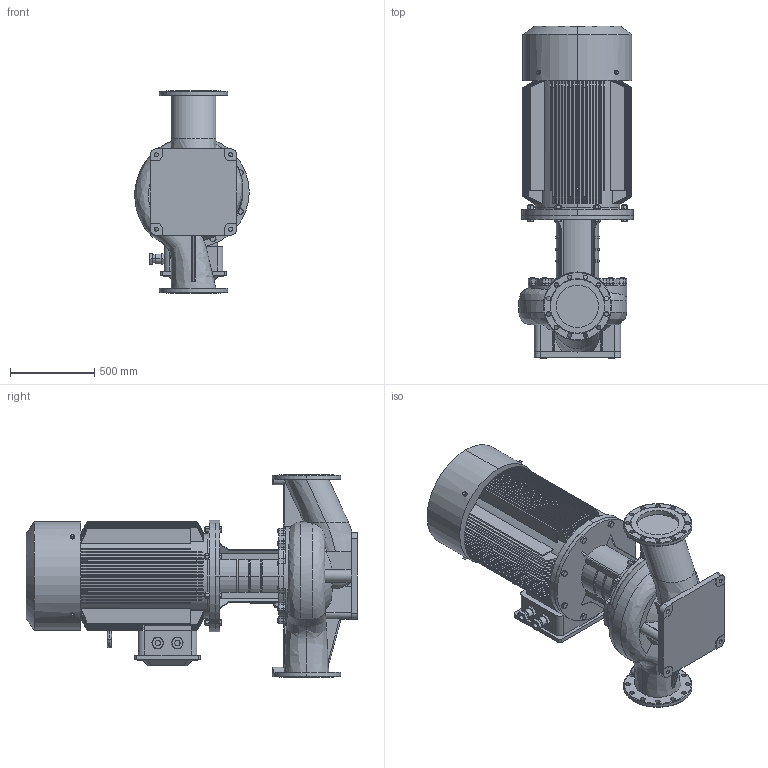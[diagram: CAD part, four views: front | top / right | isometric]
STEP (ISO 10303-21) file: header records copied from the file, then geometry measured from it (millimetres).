
FILE_DESCRIPTION (( 'STEP AP203' ), '1' );
FILE_NAME ('TD250-40 46G／4.STEP', '2026-09-07T03:26:24', ( '' ), ( '' ), 'SwSTEP 2.0', 'SolidWorks 2020', '' );
FILE_SCHEMA (( 'CONFIG_CONTROL_DESIGN' ));
Length unit declared in the file: millimetre
Products named in the file (1): TD250-40 46G／4
Bounding box: 677.48 x 1964 x 1200 mm (x, y, z)
Volume: 494639287 mm3; surface area: 14666329.7 mm2
Topology: 1 solids, 23 shells, 2132 faces, 5315 edges, 3297 vertices
Faces by surface type: plane 870, cylinder 584, cone 547, torus 85, sphere 24, bspline 22
Entity records: 87966 total; most frequent: CARTESIAN_POINT 37807, ORIENTED_EDGE 10578, DIRECTION 10432, EDGE_CURVE 5289, AXIS2_PLACEMENT_3D 4130, VERTEX_POINT 3297, EDGE_LOOP 2302, LINE 2172
